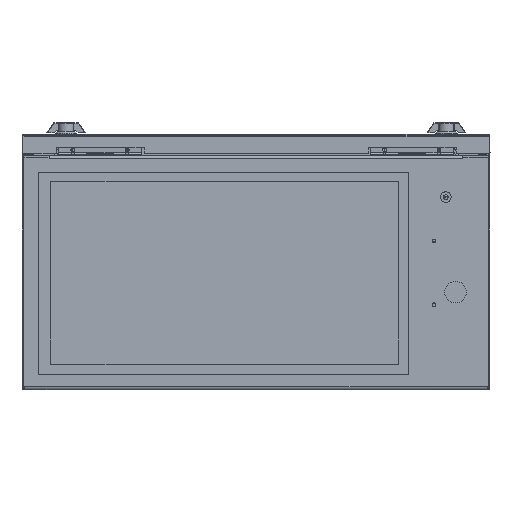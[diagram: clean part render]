
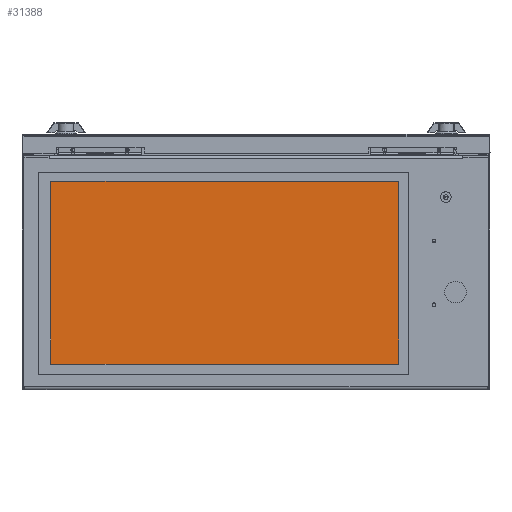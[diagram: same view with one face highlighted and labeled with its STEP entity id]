
A CAD part, left-side view. The second image highlights one B-rep face of the part: STEP entity #31388.
In plain terms, the highlighted planar face has unit normal (-1, 0, 0) as drawn and (0, 0, -1) by its records, which use the part's own axes.
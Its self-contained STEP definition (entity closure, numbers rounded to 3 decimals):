
#12434 = CARTESIAN_POINT ( 'NONE',  ( 5.185, -9.5, 0. ) ) ;
#12435 = DIRECTION ( 'NONE',  ( 1., 0., 0. ) ) ;
#12436 = VECTOR ( 'NONE', #12435, 39.37 ) ;
#12437 = CARTESIAN_POINT ( 'NONE',  ( -5.185, -9.5, 0. ) ) ;
#12438 = LINE ( 'NONE', #12437, #12436 ) ;
#12465 = CARTESIAN_POINT ( 'NONE',  ( -5.185, -9.5, 0. ) ) ;
#12466 = CARTESIAN_POINT ( 'NONE',  ( -5.185, 9.5, 0. ) ) ;
#12467 = DIRECTION ( 'NONE',  ( 0., -1., 0. ) ) ;
#12468 = VECTOR ( 'NONE', #12467, 39.37 ) ;
#12469 = CARTESIAN_POINT ( 'NONE',  ( -5.185, -9.5, 0. ) ) ;
#12474 = LINE ( 'NONE', #12469, #12468 ) ;
#12506 = DIRECTION ( 'NONE',  ( -1., 0., 0. ) ) ;
#12507 = VECTOR ( 'NONE', #12506, 39.37 ) ;
#12508 = CARTESIAN_POINT ( 'NONE',  ( -5.185, 9.5, 0. ) ) ;
#12509 = LINE ( 'NONE', #12508, #12507 ) ;
#12538 = CARTESIAN_POINT ( 'NONE',  ( 5.185, 9.5, 0. ) ) ;
#12539 = DIRECTION ( 'NONE',  ( 0., 1., 0. ) ) ;
#12540 = VECTOR ( 'NONE', #12539, 39.37 ) ;
#12541 = CARTESIAN_POINT ( 'NONE',  ( 5.185, -9.5, 0. ) ) ;
#12542 = LINE ( 'NONE', #12541, #12540 ) ;
#12627 = DIRECTION ( 'NONE',  ( -1., 0., 0. ) ) ;
#12628 = DIRECTION ( 'NONE',  ( 0., 0., -1. ) ) ;
#12629 = CARTESIAN_POINT ( 'NONE',  ( -5.185, 9.5, 0. ) ) ;
#12630 = AXIS2_PLACEMENT_3D ( 'NONE', #12629, #12628, #12627 ) ;
#12631 = PLANE ( 'NONE',  #12630 ) ;
#12632 = FACE_OUTER_BOUND ( 'NONE', #31389, .T. ) ;
#31273 = EDGE_CURVE ( 'NONE', #31295, #31274, #12438, .T. ) ;
#31274 = VERTEX_POINT ( 'NONE', #12434 ) ;
#31293 = EDGE_CURVE ( 'NONE', #31294, #31295, #12474, .T. ) ;
#31294 = VERTEX_POINT ( 'NONE', #12466 ) ;
#31295 = VERTEX_POINT ( 'NONE', #12465 ) ;
#31311 = ORIENTED_EDGE ( 'NONE', *, *, #31273, .F. ) ;
#31317 = EDGE_CURVE ( 'NONE', #31335, #31294, #12509, .T. ) ;
#31334 = EDGE_CURVE ( 'NONE', #31274, #31335, #12542, .T. ) ;
#31335 = VERTEX_POINT ( 'NONE', #12538 ) ;
#31388 = ADVANCED_FACE ( 'NONE', ( #12632 ), #12631, .T. ) ;
#31389 = EDGE_LOOP ( 'NONE', ( #31390, #31391, #31392, #31311 ) ) ;
#31390 = ORIENTED_EDGE ( 'NONE', *, *, #31293, .F. ) ;
#31391 = ORIENTED_EDGE ( 'NONE', *, *, #31317, .F. ) ;
#31392 = ORIENTED_EDGE ( 'NONE', *, *, #31334, .F. ) ;
